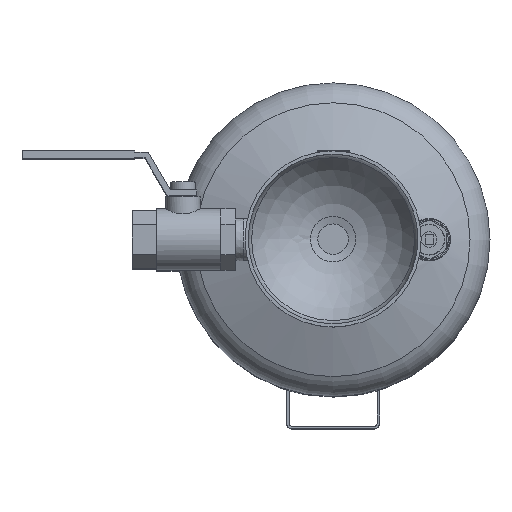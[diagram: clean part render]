
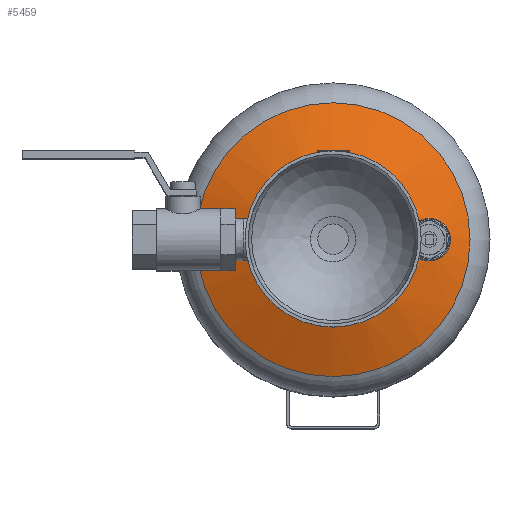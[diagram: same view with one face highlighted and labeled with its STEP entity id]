
A CAD part, top view. The second image highlights one B-rep face of the part: STEP entity #5459.
In plain terms, the highlighted free-form (B-spline) face has degree [2, 2] with [3, 9] control points.
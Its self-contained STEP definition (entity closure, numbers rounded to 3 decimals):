
#15=(
BOUNDED_SURFACE()
B_SPLINE_SURFACE(2,2,((#9617,#9618,#9619,#9620,#9621,#9622,#9623,#9624,
#9625),(#9626,#9627,#9628,#9629,#9630,#9631,#9632,#9633,#9634),(#9635,#9636,
#9637,#9638,#9639,#9640,#9641,#9642,#9643)),.UNSPECIFIED.,.F.,.T.,.F.)
B_SPLINE_SURFACE_WITH_KNOTS((3,3),(3,2,2,2,3),(1.129,1.495),
(-3.142,-1.571,0.,1.571,3.142),
 .UNSPECIFIED.)
GEOMETRIC_REPRESENTATION_ITEM()
RATIONAL_B_SPLINE_SURFACE(((1.,0.707,1.,0.707,1.,
0.707,1.,0.707,1.),(0.983,0.695,
0.983,0.695,0.983,0.695,
0.983,0.695,0.983),(1.,0.707,
1.,0.707,1.,0.707,1.,0.707,1.)))
REPRESENTATION_ITEM('')
SURFACE()
);
#86=FACE_BOUND('',#1080,.T.);
#103=B_SPLINE_CURVE_WITH_KNOTS('',3,(#8570,#8571,#8572,#8573,#8574,#8575,
#8576,#8577,#8578,#8579,#8580,#8581,#8582,#8583,#8584,#8585,#8586,#8587,
#8588,#8589,#8590,#8591,#8592,#8593,#8594,#8595,#8596,#8597,#8598,#8599,
#8600,#8601,#8602,#8603,#8604,#8605,#8606,#8607,#8608,#8609,#8610,#8611,
#8612,#8613),.UNSPECIFIED.,.T.,.F.,(4,2,2,2,2,2,2,2,2,2,2,2,2,2,2,2,2,2,
2,2,2,4),(-8.539,-8.22,-7.895,-7.387,
-6.826,-6.389,-6.101,-5.851,
-5.568,-5.146,-4.639,-4.138,
-3.68,-3.268,-2.889,-2.623,
-2.37,-2.056,-1.574,-1.022,
-0.498,0.),.UNSPECIFIED.);
#363=CIRCLE('',#6031,85.523);
#364=CIRCLE('',#6032,85.523);
#366=CIRCLE('',#6034,15.07);
#367=CIRCLE('',#6035,15.07);
#368=CIRCLE('',#6036,200.);
#729=FACE_OUTER_BOUND('',#1079,.T.);
#1079=EDGE_LOOP('',(#4742,#4743,#4744,#4745,#4746,#4747));
#1080=EDGE_LOOP('',(#4748));
#2284=VERTEX_POINT('',#8569);
#2538=VERTEX_POINT('',#9612);
#2539=VERTEX_POINT('',#9613);
#2540=VERTEX_POINT('',#9644);
#2541=VERTEX_POINT('',#9645);
#2916=EDGE_CURVE('',#2284,#2284,#103,.T.);
#3287=EDGE_CURVE('',#2538,#2539,#363,.T.);
#3288=EDGE_CURVE('',#2539,#2538,#364,.T.);
#3290=EDGE_CURVE('',#2540,#2541,#366,.T.);
#3291=EDGE_CURVE('',#2541,#2540,#367,.T.);
#3292=EDGE_CURVE('',#2541,#2539,#368,.T.);
#4742=ORIENTED_EDGE('',*,*,#3290,.F.);
#4743=ORIENTED_EDGE('',*,*,#3291,.F.);
#4744=ORIENTED_EDGE('',*,*,#3292,.T.);
#4745=ORIENTED_EDGE('',*,*,#3288,.T.);
#4746=ORIENTED_EDGE('',*,*,#3287,.T.);
#4747=ORIENTED_EDGE('',*,*,#3292,.F.);
#4748=ORIENTED_EDGE('',*,*,#2916,.T.);
#5459=ADVANCED_FACE('',(#729,#86),#15,.F.);
#6031=AXIS2_PLACEMENT_3D('',#9614,#7564,#7565);
#6032=AXIS2_PLACEMENT_3D('',#9615,#7566,#7567);
#6034=AXIS2_PLACEMENT_3D('',#9646,#7570,#7571);
#6035=AXIS2_PLACEMENT_3D('',#9647,#7572,#7573);
#6036=AXIS2_PLACEMENT_3D('',#9648,#7574,#7575);
#7564=DIRECTION('center_axis',(0.,0.,1.));
#7565=DIRECTION('ref_axis',(1.,0.,0.));
#7566=DIRECTION('center_axis',(0.,0.,1.));
#7567=DIRECTION('ref_axis',(1.,0.,0.));
#7570=DIRECTION('center_axis',(0.,0.,1.));
#7571=DIRECTION('ref_axis',(1.,0.,0.));
#7572=DIRECTION('center_axis',(0.,0.,1.));
#7573=DIRECTION('ref_axis',(1.,0.,0.));
#7574=DIRECTION('center_axis',(0.,-1.,0.));
#7575=DIRECTION('ref_axis',(-1.,0.,0.));
#8569=CARTESIAN_POINT('',(73.25,0.,379.585));
#8570=CARTESIAN_POINT('Ctrl Pts',(73.25,0.,
379.585));
#8571=CARTESIAN_POINT('Ctrl Pts',(73.25,-1.062,379.585));
#8572=CARTESIAN_POINT('Ctrl Pts',(73.122,-2.118,379.626));
#8573=CARTESIAN_POINT('Ctrl Pts',(72.615,-4.195,379.79));
#8574=CARTESIAN_POINT('Ctrl Pts',(72.232,-5.204,379.913));
#8575=CARTESIAN_POINT('Ctrl Pts',(70.956,-7.638,380.324));
#8576=CARTESIAN_POINT('Ctrl Pts',(69.909,-8.949,380.66));
#8577=CARTESIAN_POINT('Ctrl Pts',(67.285,-11.216,381.499));
#8578=CARTESIAN_POINT('Ctrl Pts',(65.69,-12.099,382.007));
#8579=CARTESIAN_POINT('Ctrl Pts',(62.651,-13.057,382.972));
#8580=CARTESIAN_POINT('Ctrl Pts',(61.264,-13.263,383.411));
#8581=CARTESIAN_POINT('Ctrl Pts',(58.953,-13.241,384.139));
#8582=CARTESIAN_POINT('Ctrl Pts',(58.036,-13.136,384.427));
#8583=CARTESIAN_POINT('Ctrl Pts',(56.359,-12.765,384.954));
#8584=CARTESIAN_POINT('Ctrl Pts',(55.597,-12.523,385.192));
#8585=CARTESIAN_POINT('Ctrl Pts',(54.023,-11.86,385.684));
#8586=CARTESIAN_POINT('Ctrl Pts',(53.22,-11.421,385.935));
#8587=CARTESIAN_POINT('Ctrl Pts',(51.342,-10.123,386.519));
#8588=CARTESIAN_POINT('Ctrl Pts',(50.338,-9.172,386.831));
#8589=CARTESIAN_POINT('Ctrl Pts',(48.481,-6.756,387.406));
#8590=CARTESIAN_POINT('Ctrl Pts',(47.718,-5.25,387.642));
#8591=CARTESIAN_POINT('Ctrl Pts',(46.801,-2.03,387.925));
#8592=CARTESIAN_POINT('Ctrl Pts',(46.65,-0.355,387.972));
#8593=CARTESIAN_POINT('Ctrl Pts',(46.965,2.825,387.875));
#8594=CARTESIAN_POINT('Ctrl Pts',(47.376,4.301,387.748));
#8595=CARTESIAN_POINT('Ctrl Pts',(48.608,6.902,387.367));
#8596=CARTESIAN_POINT('Ctrl Pts',(49.373,8.028,387.13));
#8597=CARTESIAN_POINT('Ctrl Pts',(51.132,9.922,386.585));
#8598=CARTESIAN_POINT('Ctrl Pts',(52.093,10.702,386.286));
#8599=CARTESIAN_POINT('Ctrl Pts',(53.875,11.781,385.73));
#8600=CARTESIAN_POINT('Ctrl Pts',(54.649,12.151,385.489));
#8601=CARTESIAN_POINT('Ctrl Pts',(56.21,12.722,385.));
#8602=CARTESIAN_POINT('Ctrl Pts',(56.991,12.929,384.755));
#8603=CARTESIAN_POINT('Ctrl Pts',(58.772,13.231,384.196));
#8604=CARTESIAN_POINT('Ctrl Pts',(59.775,13.286,383.88));
#8605=CARTESIAN_POINT('Ctrl Pts',(62.308,13.138,383.081));
#8606=CARTESIAN_POINT('Ctrl Pts',(63.82,12.781,382.602));
#8607=CARTESIAN_POINT('Ctrl Pts',(66.865,11.47,381.633));
#8608=CARTESIAN_POINT('Ctrl Pts',(68.347,10.446,381.16));
#8609=CARTESIAN_POINT('Ctrl Pts',(70.765,7.911,380.385));
#8610=CARTESIAN_POINT('Ctrl Pts',(71.703,6.45,380.083));
#8611=CARTESIAN_POINT('Ctrl Pts',(72.938,3.3,379.686));
#8612=CARTESIAN_POINT('Ctrl Pts',(73.25,1.661,379.585));
#8613=CARTESIAN_POINT('Ctrl Pts',(73.25,0.,
379.585));
#9612=CARTESIAN_POINT('',(85.523,0.,374.274));
#9613=CARTESIAN_POINT('',(-85.523,0.,374.274));
#9614=CARTESIAN_POINT('Origin',(0.,0.,374.274));
#9615=CARTESIAN_POINT('Origin',(0.,0.,374.274));
#9617=CARTESIAN_POINT('Ctrl Pts',(-85.523,0.,374.274));
#9618=CARTESIAN_POINT('Ctrl Pts',(-85.523,-85.523,374.274));
#9619=CARTESIAN_POINT('Ctrl Pts',(0.,-85.523,374.274));
#9620=CARTESIAN_POINT('Ctrl Pts',(85.523,-85.523,374.274));
#9621=CARTESIAN_POINT('Ctrl Pts',(85.523,0.,374.274));
#9622=CARTESIAN_POINT('Ctrl Pts',(85.523,85.523,374.274));
#9623=CARTESIAN_POINT('Ctrl Pts',(0.,85.523,374.274));
#9624=CARTESIAN_POINT('Ctrl Pts',(-85.523,85.523,374.274));
#9625=CARTESIAN_POINT('Ctrl Pts',(-85.523,0.,374.274));
#9626=CARTESIAN_POINT('Ctrl Pts',(-52.024,0.,390.121));
#9627=CARTESIAN_POINT('Ctrl Pts',(-52.024,-52.024,390.121));
#9628=CARTESIAN_POINT('Ctrl Pts',(0.,-52.024,390.121));
#9629=CARTESIAN_POINT('Ctrl Pts',(52.024,-52.024,390.121));
#9630=CARTESIAN_POINT('Ctrl Pts',(52.024,0.,390.121));
#9631=CARTESIAN_POINT('Ctrl Pts',(52.024,52.024,390.121));
#9632=CARTESIAN_POINT('Ctrl Pts',(0.,52.024,390.121));
#9633=CARTESIAN_POINT('Ctrl Pts',(-52.024,52.024,390.121));
#9634=CARTESIAN_POINT('Ctrl Pts',(-52.024,0.,390.121));
#9635=CARTESIAN_POINT('Ctrl Pts',(-15.07,0.,392.913));
#9636=CARTESIAN_POINT('Ctrl Pts',(-15.07,-15.07,392.913));
#9637=CARTESIAN_POINT('Ctrl Pts',(0.,-15.07,392.913));
#9638=CARTESIAN_POINT('Ctrl Pts',(15.07,-15.07,392.913));
#9639=CARTESIAN_POINT('Ctrl Pts',(15.07,0.,392.913));
#9640=CARTESIAN_POINT('Ctrl Pts',(15.07,15.07,392.913));
#9641=CARTESIAN_POINT('Ctrl Pts',(0.,15.07,392.913));
#9642=CARTESIAN_POINT('Ctrl Pts',(-15.07,15.07,392.913));
#9643=CARTESIAN_POINT('Ctrl Pts',(-15.07,0.,392.913));
#9644=CARTESIAN_POINT('',(15.07,0.,392.913));
#9645=CARTESIAN_POINT('',(-15.07,0.,392.913));
#9646=CARTESIAN_POINT('Origin',(0.,0.,392.913));
#9647=CARTESIAN_POINT('Origin',(0.,0.,392.913));
#9648=CARTESIAN_POINT('Origin',(-0.002,0.,
193.481));
